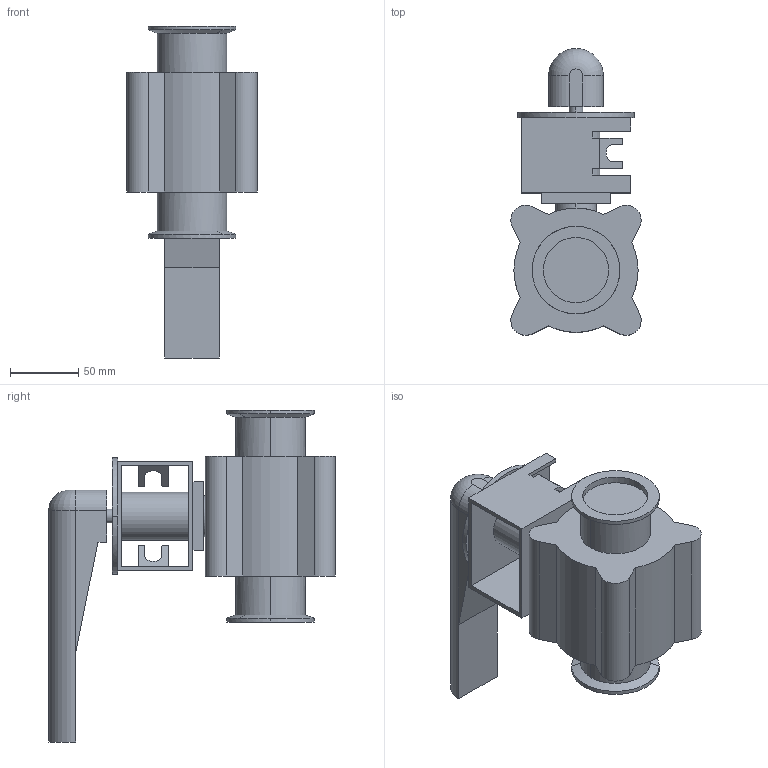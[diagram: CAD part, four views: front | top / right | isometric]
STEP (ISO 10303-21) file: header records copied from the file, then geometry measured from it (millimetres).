
FILE_DESCRIPTION(('Creo Elements/Direct Modeling STEP Export'),'2;1');
FILE_NAME('BLV1-2T-HL-12CL.stp','2019-05-10T 8:19:29',(''),(''),'Creo Elements/Direct Modeling STEP processor for AP214 (Solid Model)','Creo Elements/Direct Modeling 19.0F 14-Feb-2017 (C) Parametric Technology GmbH','');
FILE_SCHEMA(('AUTOMOTIVE_DESIGN { 1 0 10303 214 1 1 1 1 }'));
Length unit declared in the file: millimetre
Products named in the file (2): BLV1-2T-HL-12CL
Assembly tree (1 placements, depth 2):
  BLV1-2T-HL-12CL
    BLV1-2T-HL-12CL
Bounding box: 95.12 x 209.56 x 242.5 mm (x, y, z)
Volume: 1146742.9 mm3; surface area: 136518.6 mm2
Topology: 1 solids, 1 shells, 108 faces, 283 edges, 185 vertices
Faces by surface type: plane 70, cylinder 33, cone 4, torus 1
Entity records: 3198 total; most frequent: CARTESIAN_POINT 602, ORIENTED_EDGE 566, DIRECTION 489, EDGE_CURVE 283, VECTOR 191, LINE 191, VERTEX_POINT 185, AXIS2_PLACEMENT_3D 149
